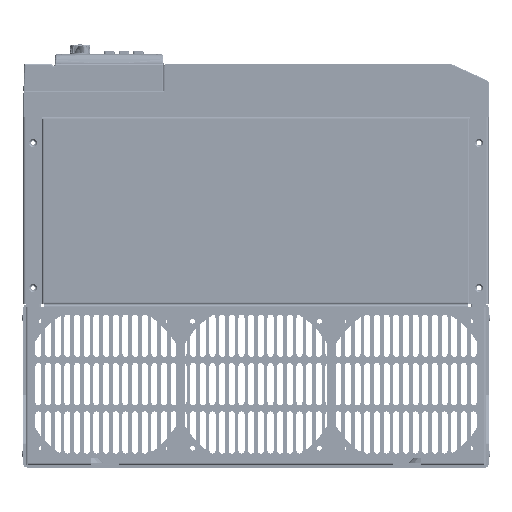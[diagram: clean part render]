
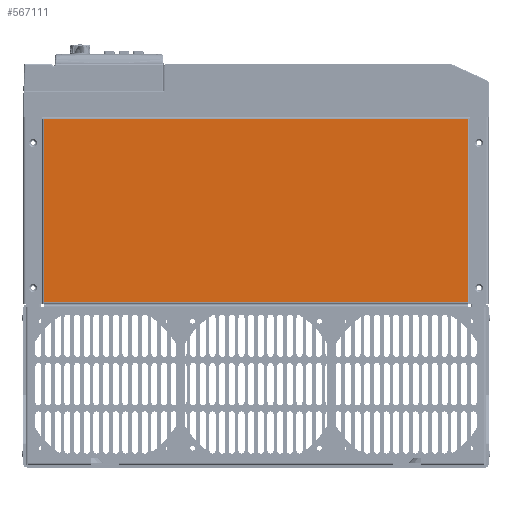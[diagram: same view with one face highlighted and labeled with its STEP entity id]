
A CAD part, front view. The second image highlights one B-rep face of the part: STEP entity #567111.
In plain terms, the highlighted planar face has unit normal (0, -1, 0) as drawn and (0, 1, 0) by its records, which use the part's own axes.
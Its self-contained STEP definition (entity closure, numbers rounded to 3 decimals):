
#567060=DIRECTION('',(0.,0.,-1.));
#567061=VECTOR('',#567060,151.7);
#567062=CARTESIAN_POINT('',(-175.3,1.5,-1.7));
#567063=LINE('',#567062,#567061);
#567067=DIRECTION('',(1.,0.,0.));
#567068=VECTOR('',#567067,350.3);
#567069=CARTESIAN_POINT('',(-175.3,1.5,-153.4));
#567070=LINE('',#567069,#567068);
#567074=DIRECTION('',(0.,0.,1.));
#567075=VECTOR('',#567074,151.7);
#567076=CARTESIAN_POINT('',(175.,1.5,-153.4));
#567077=LINE('',#567076,#567075);
#567081=DIRECTION('',(-1.,0.,0.));
#567082=VECTOR('',#567081,350.3);
#567083=CARTESIAN_POINT('',(175.,1.5,-1.7));
#567084=LINE('',#567083,#567082);
#567088=CARTESIAN_POINT('',(-175.3,1.5,-1.7));
#567089=CARTESIAN_POINT('',(-175.3,1.5,-153.4));
#567090=VERTEX_POINT('',#567088);
#567091=VERTEX_POINT('',#567089);
#567092=CARTESIAN_POINT('',(175.,1.5,-153.4));
#567093=VERTEX_POINT('',#567092);
#567094=CARTESIAN_POINT('',(175.,1.5,-1.7));
#567095=VERTEX_POINT('',#567094);
#567096=CARTESIAN_POINT('',(-0.15,1.5,-77.55));
#567097=DIRECTION('',(0.,1.,0.));
#567098=DIRECTION('',(1.,0.,0.));
#567099=AXIS2_PLACEMENT_3D('',#567096,#567097,#567098);
#567100=PLANE('',#567099);
#567102=ORIENTED_EDGE('',*,*,#567101,.T.);
#567104=ORIENTED_EDGE('',*,*,#567103,.T.);
#567106=ORIENTED_EDGE('',*,*,#567105,.T.);
#567108=ORIENTED_EDGE('',*,*,#567107,.T.);
#567109=EDGE_LOOP('',(#567102,#567104,#567106,#567108));
#567110=FACE_OUTER_BOUND('',#567109,.F.);
#567101=EDGE_CURVE('',#567090,#567091,#567063,.T.);
#567103=EDGE_CURVE('',#567091,#567093,#567070,.T.);
#567105=EDGE_CURVE('',#567093,#567095,#567077,.T.);
#567107=EDGE_CURVE('',#567095,#567090,#567084,.T.);
#567111=ADVANCED_FACE('',(#567110),#567100,.T.);
